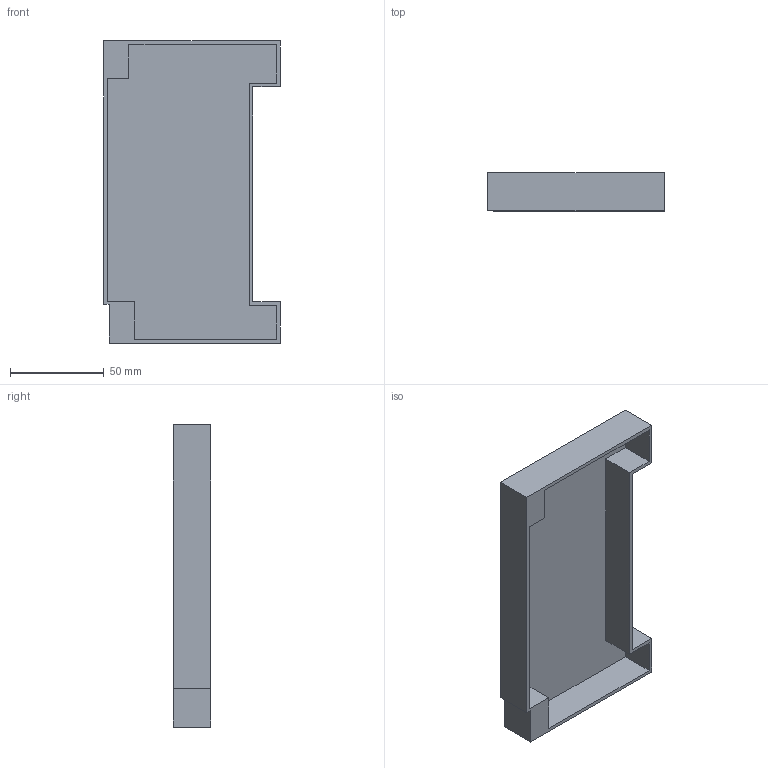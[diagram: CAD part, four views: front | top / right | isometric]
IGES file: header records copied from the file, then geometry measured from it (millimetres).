
Start section:  PTC IGES file: j4-du-700-22k-sidecover2.igs
Global section: file name: j4-du-700-22k-sidecover2.igs; native system: Creo Parametric by Parametric Technology Corporation; preprocessor: 2014310; author: JR20012; organization: Unknown; date: 20160927.133802; units: millimetre
Bounding box: 94.2 x 20 x 161 mm (x, y, z)
Volume: 53867.7 mm3; surface area: 47066.9 mm2
Topology: 1 solids, 1 shells, 25 faces, 66 edges, 44 vertices
Faces by surface type: bspline 25
